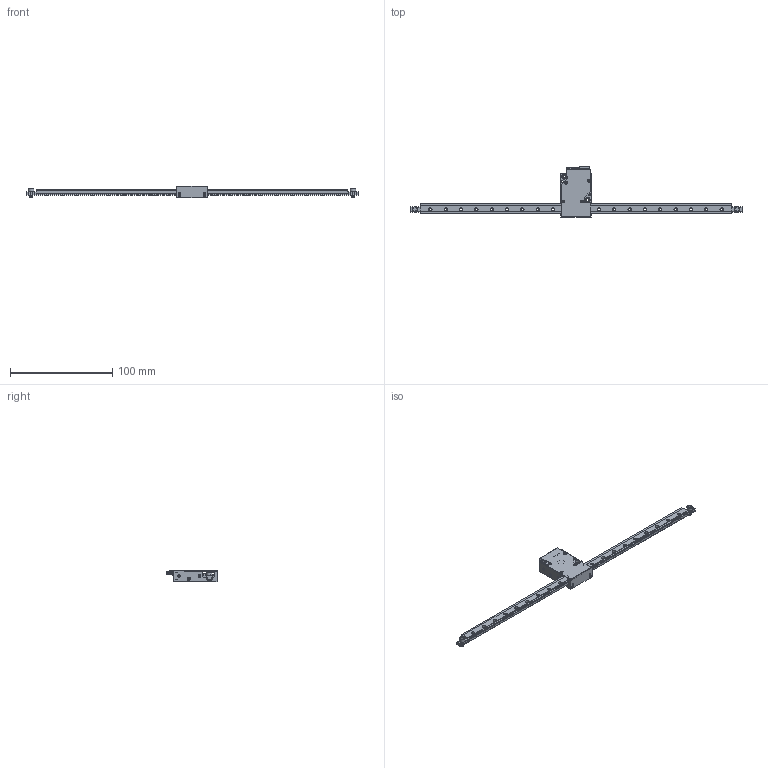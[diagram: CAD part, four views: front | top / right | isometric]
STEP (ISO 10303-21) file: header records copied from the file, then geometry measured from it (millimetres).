
FILE_DESCRIPTION(/* description */ (''),/* implementation_level */ '2;1');
FILE_NAME(/* name */ 'XLA_10_325_assy_A2.stp',/* time_stamp */ '2024-02-28T11:41:11+01:00',/* author */ (''),/* organization */ (''),/* preprocessor_version */ 'ST-DEVELOPER v16',/* originating_system */ 'SIEMENS PLM Software NX 10.0',/* authorisation */ '');
FILE_SCHEMA (('AUTOMOTIVE_DESIGN { 1 0 10303 214 3 1 1 1 }'));
Length unit declared in the file: millimetre
Products named in the file (18): encoder; 522070460_stp; 527451297_Gold; linear_encoder_305; magnet_limit; Bout_M3_L6; ceramic_ruler_W3_T2_L305; XLA_10_tractielat_FR4_305_C; rail_325; PACK-SMIB1.6-3_stp; XLA_10_cover_A; CSPPN1P-ST3W-M2-6_214_step; CBSTSE2.6-3_stp; carriage; XLA_10_body_A2; XLA_10_top_PCB_V2; XLA_10_tractielat_assy_325_1C; XLA_10_325_assy_A2
Assembly tree (24 placements, depth 3):
  XLA_10_325_assy_A2
    XLA_10_body_A2
    carriage
    XLA_10_tractielat_assy_325_1C
      rail_325
      XLA_10_tractielat_FR4_305_C
      ceramic_ruler_W3_T2_L305
      Bout_M3_L6  x2
      magnet_limit  x2
      linear_encoder_305
    CBSTSE2.6-3_stp  x2
    CSPPN1P-ST3W-M2-6_214_step  x2
    XLA_10_cover_A
    XLA_10_top_PCB_V2
      527451297_Gold
      522070460_stp
      encoder
    PACK-SMIB1.6-3_stp  x4
Bounding box: 325 x 49.1 x 11.5 mm (x, y, z)
Volume: 24064.8 mm3; surface area: 32362.6 mm2
Topology: 33 solids, 33 shells, 1866 faces, 5293 edges, 3509 vertices
Faces by surface type: plane 1183, cylinder 525, cone 115, torus 32, bspline 10, sphere 1
Full cylindrical faces by diameter (mm): 0.7 x2, 1 x122, 1.25 x4, 1.6 x8, 1.8 x4, 2 x4, 2.05 x2, 2.113 x2, 2.4 x5, 2.459 x22, 2.6 x4, 2.8 x4, 3.2 x20, 3.4 x1, 3.6 x2, 4 x1, 5 x4, 5.5 x2, 6 x2, 6.4 x2, 7 x1
Entity records: 57500 total; most frequent: CARTESIAN_POINT 13080, DIRECTION 8729, ORIENTED_EDGE 8708, EDGE_CURVE 4354, LINE 3263, VECTOR 3263, VERTEX_POINT 3050, AXIS2_PLACEMENT_3D 2733
